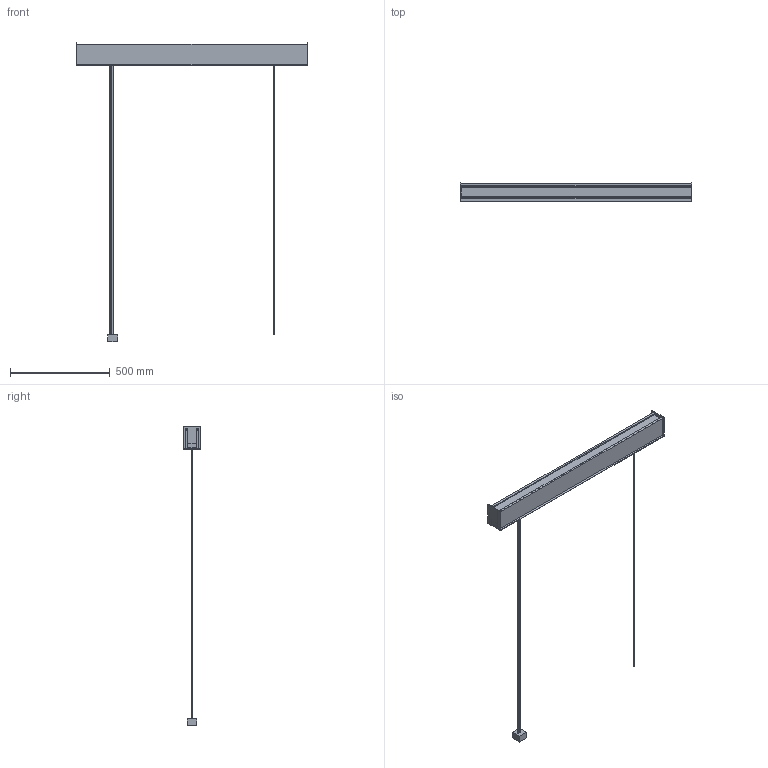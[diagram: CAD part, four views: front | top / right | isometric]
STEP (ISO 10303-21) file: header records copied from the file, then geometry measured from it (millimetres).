
FILE_DESCRIPTION (( 'STEP AP203' ), '1' );
FILE_NAME ('Belka zwieszana 1160mm.STEP', '2020-07-12T21:23:28', ( '' ), ( '' ), 'SwSTEP 2.0', 'SolidWorks 2012', '' );
FILE_SCHEMA (( 'CONFIG_CONTROL_DESIGN' ));
Length unit declared in the file: millimetre
Products named in the file (1): Belka zwieszana 1160mm
Bounding box: 1160 x 90 x 1500 mm (x, y, z)
Volume: 3533489.2 mm3; surface area: 931192.6 mm2
Topology: 1 solids, 1 shells, 94 faces, 248 edges, 164 vertices
Faces by surface type: plane 54, cylinder 40
Entity records: 3061 total; most frequent: DIRECTION 518, CARTESIAN_POINT 507, ORIENTED_EDGE 496, EDGE_CURVE 248, AXIS2_PLACEMENT_3D 175, VECTOR 168, LINE 168, VERTEX_POINT 164
